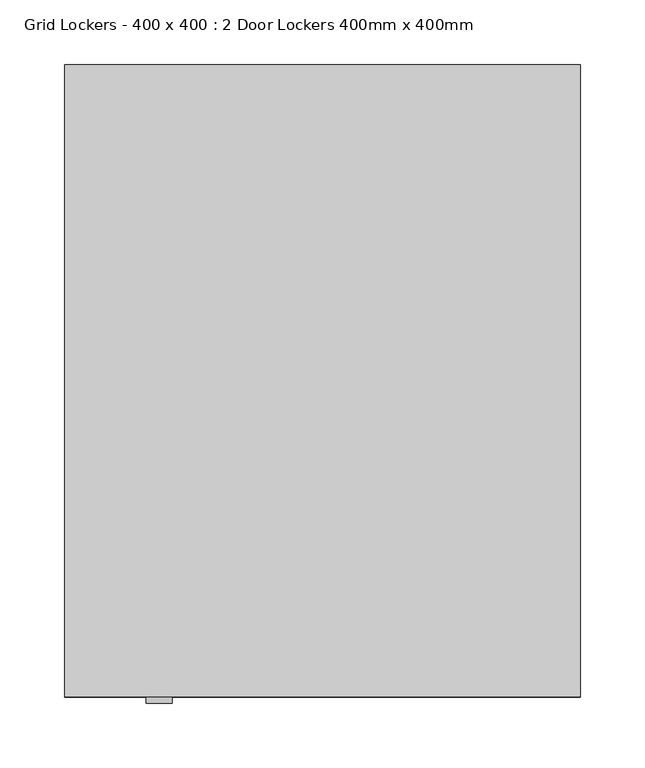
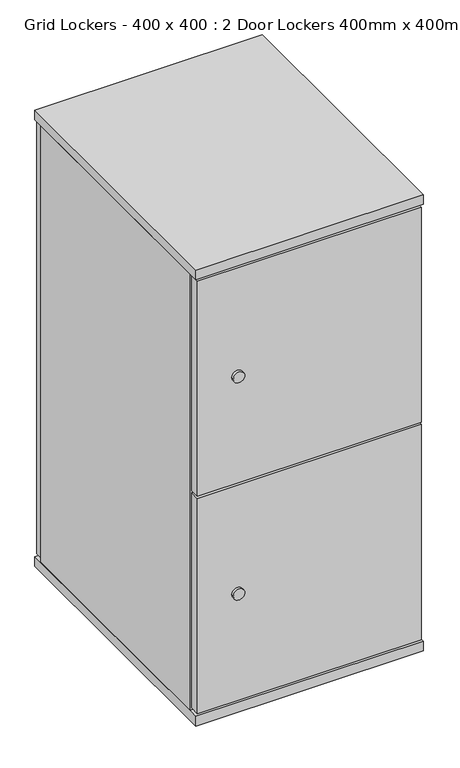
"""IFC4 building model written with IfcOpenShell, lengths in millimetres: furniture geometry, Grid Lockers - 400 x 400 : 2 Door Lockers 400mm x 400mm."""

from ifc_helpers import new_model, si_unit, point, frame, frame_2d, origin, origin_with_axes, place, context, project, spatial, polyline, circle_curve, trimmed, segment, composite_curve, outline, extrude, source, transform, mapped, element, save


def grid_lockers_400_x_400_2_door_lockers_400mm_x_400mm_23a092ac(model_context):
    return source(origin(), model_context, "Body", "SweptSolid", [
        extrude(outline(composite_curve([segment(trimmed(circle_curve(frame_2d((635.9435904, 73.2979632)), 10.0), [point((635.9435904, 63.2979632))], [point((635.9435904, 83.2979632))], False, "CARTESIAN"), True, "CONTINUOUS"), segment(trimmed(circle_curve(frame_2d((635.9435904, 73.2979632)), 10.0), [point((635.9435904, 83.2979632))], [point((635.9435904, 63.2979632))], False, "CARTESIAN"), True, "CONTINUOUS")], self_intersect=False)), frame((0.0, -495.0, 0.0), z_axis=(0.0, 1.0, 0.0), x_axis=(0.0, 0.0, 1.0)), (0.0, 0.0, 1.0), 5.0),
        extrude(outline(polyline([(397.0, -490.0), (3.0, -490.0), (3.0, -472.0), (397.0, -472.0), (397.0, -490.0)])), frame((0.0, 0.0, 435.9435904), z_axis=(0.0, 0.0, 1.0), x_axis=(1.0, 0.0, 0.0)), (0.0, 0.0, 1.0), 400.0),
        extrude(outline(composite_curve([segment(trimmed(circle_curve(frame_2d((350.0, -50.0)), 15.0), [point((335.0, -50.0))], [point((365.0, -50.0))], False, "CARTESIAN"), True, "CONTINUOUS"), segment(trimmed(circle_curve(frame_2d((350.0, -50.0)), 15.0), [point((365.0, -50.0))], [point((335.0, -50.0))], False, "CARTESIAN"), True, "CONTINUOUS")], self_intersect=False)), origin_with_axes(), (0.0, 0.0, 1.0), 10.0),
        extrude(outline(composite_curve([segment(trimmed(circle_curve(frame_2d((50.0, -50.0)), 15.0), [point((35.0, -50.0))], [point((65.0, -50.0))], False, "CARTESIAN"), True, "CONTINUOUS"), segment(trimmed(circle_curve(frame_2d((50.0, -50.0)), 15.0), [point((65.0, -50.0))], [point((35.0, -50.0))], False, "CARTESIAN"), True, "CONTINUOUS")], self_intersect=False)), origin_with_axes(), (0.0, 0.0, 1.0), 10.0),
        extrude(outline(composite_curve([segment(trimmed(circle_curve(frame_2d((50.0, -440.0)), 15.0), [point((35.0, -440.0))], [point((65.0, -440.0))], False, "CARTESIAN"), True, "CONTINUOUS"), segment(trimmed(circle_curve(frame_2d((50.0, -440.0)), 15.0), [point((65.0, -440.0))], [point((35.0, -440.0))], False, "CARTESIAN"), True, "CONTINUOUS")], self_intersect=False)), origin_with_axes(), (0.0, 0.0, 1.0), 10.0),
        extrude(outline(composite_curve([segment(trimmed(circle_curve(frame_2d((350.0, -440.0)), 15.0), [point((335.0, -440.0))], [point((365.0, -440.0))], False, "CARTESIAN"), True, "CONTINUOUS"), segment(trimmed(circle_curve(frame_2d((350.0, -440.0)), 15.0), [point((365.0, -440.0))], [point((335.0, -440.0))], False, "CARTESIAN"), True, "CONTINUOUS")], self_intersect=False)), origin_with_axes(), (0.0, 0.0, 1.0), 10.0),
        extrude(outline(polyline([(400.0, -490.0), (0.0, -490.0), (0.0, 0.0), (400.0, 0.0), (400.0, -490.0)])), frame((0.0, 0.0, 840.0), z_axis=(0.0, 0.0, 1.0), x_axis=(1.0, 0.0, 0.0)), (0.0, 0.0, 1.0), 18.0),
        extrude(outline(polyline([(400.0, -490.0), (0.0, -490.0), (0.0, 0.0), (400.0, 0.0), (400.0, -490.0)])), frame((0.0, 0.0, 10.0), z_axis=(0.0, 0.0, 1.0), x_axis=(1.0, 0.0, 0.0)), (0.0, 0.0, 1.0), 18.0),
        extrude(outline(composite_curve([segment(trimmed(circle_curve(frame_2d((232.1222235, 73.2979632)), 10.0), [point((232.1222235, 63.2979632))], [point((232.1222235, 83.2979632))], False, "CARTESIAN"), True, "CONTINUOUS"), segment(trimmed(circle_curve(frame_2d((232.1222235, 73.2979632)), 10.0), [point((232.1222235, 83.2979632))], [point((232.1222235, 63.2979632))], False, "CARTESIAN"), True, "CONTINUOUS")], self_intersect=False)), frame((0.0, -495.0, 0.0), z_axis=(0.0, 1.0, 0.0), x_axis=(0.0, 0.0, 1.0)), (0.0, 0.0, 1.0), 5.0),
        extrude(outline(polyline([(397.0, -490.0), (3.0, -490.0), (3.0, -472.0), (397.0, -472.0), (397.0, -490.0)])), frame((0.0, 0.0, 32.0), z_axis=(0.0, 0.0, 1.0), x_axis=(1.0, 0.0, 0.0)), (0.0, 0.0, 1.0), 400.0),
        extrude(outline(polyline([(400.0, -18.0), (400.0, -472.0), (0.0, -472.0), (0.0, -18.0), (400.0, -18.0)])), frame((0.0, 0.0, 28.0), z_axis=(0.0, 0.0, 1.0), x_axis=(1.0, 0.0, 0.0)), (0.0, 0.0, 1.0), 812.0),
        extrude(outline(polyline([(397.0, 0.0), (397.0, -18.0), (3.0, -18.0), (3.0, 0.0), (397.0, 0.0)])), frame((0.0, 0.0, 32.0), z_axis=(0.0, 0.0, 1.0), x_axis=(1.0, 0.0, 0.0)), (0.0, 0.0, 1.0), 808.0),
    ])


if __name__ == "__main__":
    model = new_model("IFC4")
    model_context = context("Model", 3, world=origin())
    ifc_project = project(units=[si_unit("LENGTHUNIT", "METRE", prefix="MILLI")], contexts=[model_context])
    site = spatial("IfcSite", under=ifc_project)
    building = spatial("IfcBuilding", under=site)
    placement = place(None, origin())
    grid_lockers_400_x_400_2_door_lockers_400mm_x_400mm_shape = grid_lockers_400_x_400_2_door_lockers_400mm_x_400mm_23a092ac(model_context)
    element("IfcFurniture", 1, ObjectType="Grid Lockers - 400 x 400 : 2 Door Lockers 400mm x 400mm", at=placement, inside=building, context=model_context, shape_type="MappedRepresentation", body=[
        mapped(grid_lockers_400_x_400_2_door_lockers_400mm_x_400mm_shape, transform((0.0, 0.0, 0.0), x_axis=(1.0, 0.0, 0.0), y_axis=(0.0, 1.0, 0.0), z_axis=(0.0, 0.0, 1.0))),
    ])
    save(model, "model.ifc")
